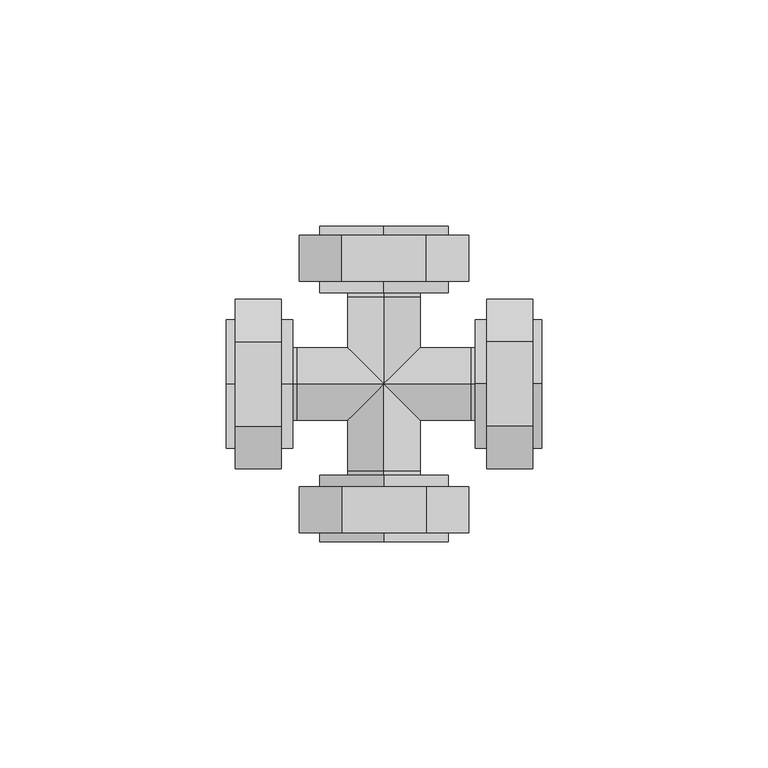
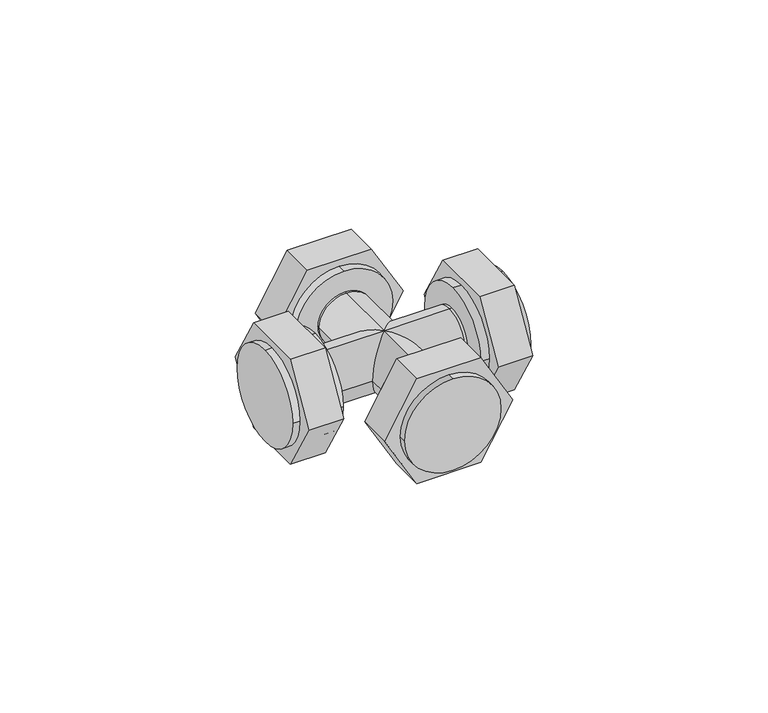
"""IFC4 building model written with IfcOpenShell, lengths in millimetres: pipe fitting geometry, HC-Kształtka-ParaForma-Tweetop-PERT-Czwórnik : Tweetop."""

from ifc_helpers import new_model, si_unit, frame, origin, place, context, project, spatial, circle_curve, ellipse_curve, source, transform, mapped, element, save
from ifc_brep_helpers import plane_surface, cylinder_surface, advanced_brep


def pipe_fitting_75d7e237(model_context):
    return source(origin(), model_context, "Body", "AdvancedBrep", [
        advanced_brep(
        [(0.0, 20.2, 14.2), (-14.2, 20.2, 0.0), (0.0, 20.2, -14.2), (14.2, 20.2, 0.0), (-9.3819419, 22.7, -16.25), (9.3819419, 22.7, -16.25), (18.7638837, 22.7, 0.0), (9.3819419, 22.7, 16.25), (-9.3819419, 22.7, 16.25), (-18.7638837, 22.7, 0.0), (0.0, 22.7, 14.2), (14.2, 22.7, 0.0), (0.0, 22.7, -14.2), (-14.2, 22.7, 0.0), (-9.3819419, 32.9, -16.25), (-18.7638837, 32.9, 0.0), (-9.3819419, 32.9, 16.25), (9.3819419, 32.9, 16.25), (18.7638837, 32.9, 0.0), (9.3819419, 32.9, -16.25), (14.2, 32.9, 0.0), (0.0, 32.9, 14.2), (-14.2, 32.9, 0.0), (0.0, 32.9, -14.2), (14.2, 34.9, 0.0), (0.0, 34.9, 14.2), (-14.2, 34.9, 0.0), (0.0, 34.9, -14.2)],
        [
            (0, 1, circle_curve(frame((0.0, 20.2, 0.0), z_axis=(0.0, -1.0, 0.0), x_axis=(-1.0000000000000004, 0.0, 0.0)), 14.2)),
            (1, 2, circle_curve(frame((0.0, 20.2, 0.0), z_axis=(0.0, -1.0, 0.0), x_axis=(-1.0000000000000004, 0.0, 0.0)), 14.2)),
            (2, 3, circle_curve(frame((0.0, 20.2, 0.0), z_axis=(0.0, -1.0, 0.0), x_axis=(-1.0000000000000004, 0.0, 0.0)), 14.2)),
            (3, 0, circle_curve(frame((0.0, 20.2, 0.0), z_axis=(0.0, -1.0, 0.0), x_axis=(-1.0000000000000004, 0.0, 0.0)), 14.2)),
            (4, 5),
            (5, 6),
            (6, 7),
            (7, 8),
            (8, 9),
            (9, 4),
            (10, 11, circle_curve(frame((0.0, 22.7, 0.0), z_axis=(0.0, 1.0, 0.0), x_axis=(-1.0000000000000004, 0.0, 0.0)), 14.2)),
            (11, 12, circle_curve(frame((0.0, 22.7, 0.0), z_axis=(0.0, 1.0, 0.0), x_axis=(-1.0000000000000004, 0.0, 0.0)), 14.2)),
            (12, 13, circle_curve(frame((0.0, 22.7, 0.0), z_axis=(0.0, 1.0, 0.0), x_axis=(-1.0000000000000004, 0.0, 0.0)), 14.2)),
            (13, 10, circle_curve(frame((0.0, 22.7, 0.0), z_axis=(0.0, 1.0, 0.0), x_axis=(-1.0000000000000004, 0.0, 0.0)), 14.2)),
            (14, 15),
            (15, 16),
            (16, 17),
            (17, 18),
            (18, 19),
            (19, 14),
            (20, 21, circle_curve(frame((0.0, 32.9, 0.0), z_axis=(0.0, -1.0, 0.0), x_axis=(-1.0000000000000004, 0.0, 0.0)), 14.2)),
            (21, 22, circle_curve(frame((0.0, 32.9, 0.0), z_axis=(0.0, -1.0, 0.0), x_axis=(-1.0000000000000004, 0.0, 0.0)), 14.2)),
            (22, 23, circle_curve(frame((0.0, 32.9, 0.0), z_axis=(0.0, -1.0, 0.0), x_axis=(-1.0000000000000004, 0.0, 0.0)), 14.2)),
            (23, 20, circle_curve(frame((0.0, 32.9, 0.0), z_axis=(0.0, -1.0, 0.0), x_axis=(-1.0000000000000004, 0.0, 0.0)), 14.2)),
            (4, 14),
            (19, 5),
            (18, 6),
            (17, 7),
            (16, 8),
            (15, 9),
            (3, 11),
            (10, 0),
            (24, 25, circle_curve(frame((0.0, 34.9, 0.0), z_axis=(0.0, -1.0, 0.0), x_axis=(-1.0000000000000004, 0.0, 0.0)), 14.2)),
            (25, 21),
            (20, 24),
            (1, 13),
            (12, 2),
            (26, 27, circle_curve(frame((0.0, 34.9, 0.0), z_axis=(0.0, -1.0, 0.0), x_axis=(-1.0000000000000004, 0.0, 0.0)), 14.2)),
            (27, 23),
            (22, 26),
            (25, 26, circle_curve(frame((0.0, 34.9, 0.0), z_axis=(0.0, -1.0, 0.0), x_axis=(-1.0000000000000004, 0.0, 0.0)), 14.2)),
            (27, 24, circle_curve(frame((0.0, 34.9, 0.0), z_axis=(0.0, -1.0, 0.0), x_axis=(-1.0000000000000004, 0.0, 0.0)), 14.2)),
        ],
        [
            plane_surface(frame((0.0, 20.2, 0.0), z_axis=(0.0, -1.0, 0.0), x_axis=(0.0, 0.0, 1.0))),
            plane_surface(frame((0.0, 22.7, 0.0), z_axis=(0.0, -1.0, 0.0), x_axis=(0.0, 0.0, 1.0))),
            plane_surface(frame((0.0, 32.9, 0.0), z_axis=(0.0, 1.0, 0.0), x_axis=(0.0, 0.0, 1.0))),
            plane_surface(frame((-9.3819419, 22.7, -16.25), z_axis=(0.0, 0.0, -1.0), x_axis=(0.0, 1.0, 0.0))),
            plane_surface(frame((9.3819419, 22.7, -16.25), z_axis=(0.866025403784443, 0.0, -0.49999999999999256), x_axis=(0.0, 1.0, 0.0))),
            plane_surface(frame((18.7638837, 22.7, 0.0), z_axis=(0.8660254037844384, 0.0, 0.5000000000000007), x_axis=(0.0, 1.0, 0.0))),
            plane_surface(frame((9.3819419, 22.7, 16.25), z_axis=(0.0, 0.0, 1.0), x_axis=(0.0, 1.0, 0.0))),
            plane_surface(frame((-9.3819419, 22.7, 16.25), z_axis=(-0.8660254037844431, 0.0, 0.49999999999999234), x_axis=(0.0, 1.0, 0.0))),
            plane_surface(frame((-18.7638837, 22.7, 0.0), z_axis=(-0.866025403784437, 0.0, -0.5000000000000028), x_axis=(0.0, 1.0, 0.0))),
            cylinder_surface(frame((0.0, 20.2, 0.0), z_axis=(0.0, -1.0000000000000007, 0.0), x_axis=(-1.0000000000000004, 0.0, 0.0)), 14.2),
            plane_surface(frame((0.0, 34.9, 0.0), z_axis=(0.0, 1.0, 0.0), x_axis=(0.0, 0.0, 1.0))),
        ],
        [
            (0, [[1, 2, 3, 4]]),
            (1, [[5, 6, 7, 8, 9, 10], [11, 12, 13, 14]]),
            (2, [[15, 16, 17, 18, 19, 20], [21, 22, 23, 24]]),
            (3, [[-5, 25, -20, 26]]),
            (4, [[-6, -26, -19, 27]]),
            (5, [[-7, -27, -18, 28]]),
            (6, [[-8, -28, -17, 29]]),
            (7, [[-9, -29, -16, 30]]),
            (8, [[-10, -30, -15, -25]]),
            (9, [[-4, 31, -11, 32]]),
            (9, [[33, 34, -21, 35]]),
            (9, [[-2, 36, -13, 37]]),
            (9, [[38, 39, -23, 40]]),
            (9, [[-1, -32, -14, -36]]),
            (9, [[41, -40, -22, -34]]),
            (9, [[-3, -37, -12, -31]]),
            (9, [[42, -35, -24, -39]]),
            (10, [[-33, -42, -38, -41]]),
        ],
    ),
        advanced_brep(
        [(20.2, 0.0, 14.2), (20.2, 14.2, 0.0), (20.2, 0.0, -14.2), (20.2, -14.2, 0.0), (22.7, 9.3819419, -16.25), (22.7, -9.3819419, -16.25), (22.7, -18.7638837, 0.0), (22.7, -9.3819419, 16.25), (22.7, 9.3819419, 16.25), (22.7, 18.7638837, 0.0), (22.7, 0.0, 14.2), (22.7, -14.2, 0.0), (22.7, 0.0, -14.2), (22.7, 14.2, 0.0), (32.9, 9.3819419, -16.25), (32.9, 18.7638837, 0.0), (32.9, 9.3819419, 16.25), (32.9, -9.3819419, 16.25), (32.9, -18.7638837, 0.0), (32.9, -9.3819419, -16.25), (32.9, -14.2, 0.0), (32.9, 0.0, 14.2), (32.9, 14.2, 0.0), (32.9, 0.0, -14.2), (34.9, -14.2, 0.0), (34.9, 0.0, 14.2), (34.9, 14.2, 0.0), (34.9, 0.0, -14.2)],
        [
            (0, 1, circle_curve(frame((20.2, 0.0, 0.0), z_axis=(-1.0, 0.0, 0.0), x_axis=(0.0, 1.0000000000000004, 0.0)), 14.2)),
            (1, 2, circle_curve(frame((20.2, 0.0, 0.0), z_axis=(-1.0, 0.0, 0.0), x_axis=(0.0, 1.0000000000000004, 0.0)), 14.2)),
            (2, 3, circle_curve(frame((20.2, 0.0, 0.0), z_axis=(-1.0, 0.0, 0.0), x_axis=(0.0, 1.0000000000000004, 0.0)), 14.2)),
            (3, 0, circle_curve(frame((20.2, 0.0, 0.0), z_axis=(-1.0, 0.0, 0.0), x_axis=(0.0, 1.0000000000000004, 0.0)), 14.2)),
            (4, 5),
            (5, 6),
            (6, 7),
            (7, 8),
            (8, 9),
            (9, 4),
            (10, 11, circle_curve(frame((22.7, 0.0, 0.0), z_axis=(1.0, 0.0, 0.0), x_axis=(0.0, 1.0000000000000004, 0.0)), 14.2)),
            (11, 12, circle_curve(frame((22.7, 0.0, 0.0), z_axis=(1.0, 0.0, 0.0), x_axis=(0.0, 1.0000000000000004, 0.0)), 14.2)),
            (12, 13, circle_curve(frame((22.7, 0.0, 0.0), z_axis=(1.0, 0.0, 0.0), x_axis=(0.0, 1.0000000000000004, 0.0)), 14.2)),
            (13, 10, circle_curve(frame((22.7, 0.0, 0.0), z_axis=(1.0, 0.0, 0.0), x_axis=(0.0, 1.0000000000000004, 0.0)), 14.2)),
            (14, 15),
            (15, 16),
            (16, 17),
            (17, 18),
            (18, 19),
            (19, 14),
            (20, 21, circle_curve(frame((32.9, 0.0, 0.0), z_axis=(-1.0, 0.0, 0.0), x_axis=(0.0, 1.0000000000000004, 0.0)), 14.2)),
            (21, 22, circle_curve(frame((32.9, 0.0, 0.0), z_axis=(-1.0, 0.0, 0.0), x_axis=(0.0, 1.0000000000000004, 0.0)), 14.2)),
            (22, 23, circle_curve(frame((32.9, 0.0, 0.0), z_axis=(-1.0, 0.0, 0.0), x_axis=(0.0, 1.0000000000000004, 0.0)), 14.2)),
            (23, 20, circle_curve(frame((32.9, 0.0, 0.0), z_axis=(-1.0, 0.0, 0.0), x_axis=(0.0, 1.0000000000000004, 0.0)), 14.2)),
            (4, 14),
            (19, 5),
            (18, 6),
            (17, 7),
            (16, 8),
            (15, 9),
            (3, 11),
            (10, 0),
            (24, 25, circle_curve(frame((34.9, 0.0, 0.0), z_axis=(-1.0, 0.0, 0.0), x_axis=(0.0, 1.0000000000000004, 0.0)), 14.2)),
            (25, 21),
            (20, 24),
            (1, 13),
            (12, 2),
            (26, 27, circle_curve(frame((34.9, 0.0, 0.0), z_axis=(-1.0, 0.0, 0.0), x_axis=(0.0, 1.0000000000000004, 0.0)), 14.2)),
            (27, 23),
            (22, 26),
            (25, 26, circle_curve(frame((34.9, 0.0, 0.0), z_axis=(-1.0, 0.0, 0.0), x_axis=(0.0, 1.0000000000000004, 0.0)), 14.2)),
            (27, 24, circle_curve(frame((34.9, 0.0, 0.0), z_axis=(-1.0, 0.0, 0.0), x_axis=(0.0, 1.0000000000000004, 0.0)), 14.2)),
        ],
        [
            plane_surface(frame((20.2, 0.0, 0.0), z_axis=(-1.0, 0.0, 0.0), x_axis=(0.0, 0.0, 1.0))),
            plane_surface(frame((22.7, 0.0, 0.0), z_axis=(-1.0, 0.0, 0.0), x_axis=(0.0, 0.0, 1.0))),
            plane_surface(frame((32.9, 0.0, 0.0), z_axis=(1.0, 0.0, 0.0), x_axis=(0.0, 0.0, 1.0))),
            plane_surface(frame((22.7, 9.3819419, -16.25), z_axis=(0.0, 0.0, -1.0), x_axis=(1.0, 0.0, 0.0))),
            plane_surface(frame((22.7, -9.3819419, -16.25), z_axis=(0.0, -0.866025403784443, -0.49999999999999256), x_axis=(1.0, 0.0, 0.0))),
            plane_surface(frame((22.7, -18.7638837, 0.0), z_axis=(0.0, -0.8660254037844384, 0.5000000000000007), x_axis=(1.0, 0.0, 0.0))),
            plane_surface(frame((22.7, -9.3819419, 16.25), z_axis=(0.0, 0.0, 1.0), x_axis=(1.0, 0.0, 0.0))),
            plane_surface(frame((22.7, 9.3819419, 16.25), z_axis=(0.0, 0.8660254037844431, 0.49999999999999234), x_axis=(1.0, 0.0, 0.0))),
            plane_surface(frame((22.7, 18.7638837, 0.0), z_axis=(0.0, 0.866025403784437, -0.5000000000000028), x_axis=(1.0, 0.0, 0.0))),
            cylinder_surface(frame((20.2, 0.0, 0.0), z_axis=(-1.0000000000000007, 0.0, 0.0), x_axis=(0.0, 1.0000000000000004, 0.0)), 14.2),
            plane_surface(frame((34.9, 0.0, 0.0), z_axis=(1.0, 0.0, 0.0), x_axis=(0.0, 0.0, 1.0))),
        ],
        [
            (0, [[1, 2, 3, 4]]),
            (1, [[5, 6, 7, 8, 9, 10], [11, 12, 13, 14]]),
            (2, [[15, 16, 17, 18, 19, 20], [21, 22, 23, 24]]),
            (3, [[-5, 25, -20, 26]]),
            (4, [[-6, -26, -19, 27]]),
            (5, [[-7, -27, -18, 28]]),
            (6, [[-8, -28, -17, 29]]),
            (7, [[-9, -29, -16, 30]]),
            (8, [[-10, -30, -15, -25]]),
            (9, [[-4, 31, -11, 32]]),
            (9, [[33, 34, -21, 35]]),
            (9, [[-2, 36, -13, 37]]),
            (9, [[38, 39, -23, 40]]),
            (9, [[-1, -32, -14, -36]]),
            (9, [[41, -40, -22, -34]]),
            (9, [[-3, -37, -12, -31]]),
            (9, [[42, -35, -24, -39]]),
            (10, [[-33, -42, -38, -41]]),
        ],
    ),
        advanced_brep(
        [(0.0, -20.2, 14.2), (14.2, -20.2, 0.0), (0.0, -20.2, -14.2), (-14.2, -20.2, 0.0), (9.3819419, -22.7, -16.25), (-9.3819419, -22.7, -16.25), (-18.7638837, -22.7, 0.0), (-9.3819419, -22.7, 16.25), (9.3819419, -22.7, 16.25), (18.7638837, -22.7, 0.0), (0.0, -22.7, 14.2), (-14.2, -22.7, 0.0), (0.0, -22.7, -14.2), (14.2, -22.7, 0.0), (9.3819419, -32.9, -16.25), (18.7638837, -32.9, 0.0), (9.3819419, -32.9, 16.25), (-9.3819419, -32.9, 16.25), (-18.7638837, -32.9, 0.0), (-9.3819419, -32.9, -16.25), (-14.2, -32.9, 0.0), (0.0, -32.9, 14.2), (14.2, -32.9, 0.0), (0.0, -32.9, -14.2), (-14.2, -34.9, 0.0), (0.0, -34.9, 14.2), (14.2, -34.9, 0.0), (0.0, -34.9, -14.2)],
        [
            (0, 1, circle_curve(frame((0.0, -20.2, 0.0), z_axis=(0.0, 1.0, 0.0), x_axis=(1.0000000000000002, 0.0, 0.0)), 14.2)),
            (1, 2, circle_curve(frame((0.0, -20.2, 0.0), z_axis=(0.0, 1.0, 0.0), x_axis=(1.0000000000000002, 0.0, 0.0)), 14.2)),
            (2, 3, circle_curve(frame((0.0, -20.2, 0.0), z_axis=(0.0, 1.0, 0.0), x_axis=(1.0000000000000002, 0.0, 0.0)), 14.2)),
            (3, 0, circle_curve(frame((0.0, -20.2, 0.0), z_axis=(0.0, 1.0, 0.0), x_axis=(1.0000000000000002, 0.0, 0.0)), 14.2)),
            (4, 5),
            (5, 6),
            (6, 7),
            (7, 8),
            (8, 9),
            (9, 4),
            (10, 11, circle_curve(frame((0.0, -22.7, 0.0), z_axis=(0.0, -1.0, 0.0), x_axis=(1.0000000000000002, 0.0, 0.0)), 14.2)),
            (11, 12, circle_curve(frame((0.0, -22.7, 0.0), z_axis=(0.0, -1.0, 0.0), x_axis=(1.0000000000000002, 0.0, 0.0)), 14.2)),
            (12, 13, circle_curve(frame((0.0, -22.7, 0.0), z_axis=(0.0, -1.0, 0.0), x_axis=(1.0000000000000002, 0.0, 0.0)), 14.2)),
            (13, 10, circle_curve(frame((0.0, -22.7, 0.0), z_axis=(0.0, -1.0, 0.0), x_axis=(1.0000000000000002, 0.0, 0.0)), 14.2)),
            (14, 15),
            (15, 16),
            (16, 17),
            (17, 18),
            (18, 19),
            (19, 14),
            (20, 21, circle_curve(frame((0.0, -32.9, 0.0), z_axis=(0.0, 1.0, 0.0), x_axis=(1.0000000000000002, 0.0, 0.0)), 14.2)),
            (21, 22, circle_curve(frame((0.0, -32.9, 0.0), z_axis=(0.0, 1.0, 0.0), x_axis=(1.0000000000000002, 0.0, 0.0)), 14.2)),
            (22, 23, circle_curve(frame((0.0, -32.9, 0.0), z_axis=(0.0, 1.0, 0.0), x_axis=(1.0000000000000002, 0.0, 0.0)), 14.2)),
            (23, 20, circle_curve(frame((0.0, -32.9, 0.0), z_axis=(0.0, 1.0, 0.0), x_axis=(1.0000000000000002, 0.0, 0.0)), 14.2)),
            (4, 14),
            (19, 5),
            (18, 6),
            (17, 7),
            (16, 8),
            (15, 9),
            (3, 11),
            (10, 0),
            (24, 25, circle_curve(frame((0.0, -34.9, 0.0), z_axis=(0.0, 1.0, 0.0), x_axis=(1.0000000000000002, 0.0, 0.0)), 14.2)),
            (25, 21),
            (20, 24),
            (1, 13),
            (12, 2),
            (26, 27, circle_curve(frame((0.0, -34.9, 0.0), z_axis=(0.0, 1.0, 0.0), x_axis=(1.0000000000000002, 0.0, 0.0)), 14.2)),
            (27, 23),
            (22, 26),
            (25, 26, circle_curve(frame((0.0, -34.9, 0.0), z_axis=(0.0, 1.0, 0.0), x_axis=(1.0000000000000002, 0.0, 0.0)), 14.2)),
            (27, 24, circle_curve(frame((0.0, -34.9, 0.0), z_axis=(0.0, 1.0, 0.0), x_axis=(1.0000000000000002, 0.0, 0.0)), 14.2)),
        ],
        [
            plane_surface(frame((0.0, -20.2, 0.0), z_axis=(0.0, 1.0, 0.0), x_axis=(0.0, 0.0, 1.0))),
            plane_surface(frame((0.0, -22.7, 0.0), z_axis=(0.0, 1.0, 0.0), x_axis=(0.0, 0.0, 1.0))),
            plane_surface(frame((0.0, -32.9, 0.0), z_axis=(0.0, -1.0, 0.0), x_axis=(0.0, 0.0, 1.0))),
            plane_surface(frame((9.3819419, -22.7, -16.25), z_axis=(0.0, 0.0, -1.0), x_axis=(0.0, -1.0, 0.0))),
            plane_surface(frame((-9.3819419, -22.7, -16.25), z_axis=(-0.866025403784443, 0.0, -0.49999999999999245), x_axis=(0.0, -1.0, 0.0))),
            plane_surface(frame((-18.7638837, -22.7, 0.0), z_axis=(-0.8660254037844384, 0.0, 0.5000000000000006), x_axis=(0.0, -1.0, 0.0))),
            plane_surface(frame((-9.3819419, -22.7, 16.25), z_axis=(0.0, 0.0, 1.0), x_axis=(0.0, -1.0, 0.0))),
            plane_surface(frame((9.3819419, -22.7, 16.25), z_axis=(0.8660254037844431, 0.0, 0.49999999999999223), x_axis=(0.0, -1.0, 0.0))),
            plane_surface(frame((18.7638837, -22.7, 0.0), z_axis=(0.8660254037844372, 0.0, -0.5000000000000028), x_axis=(0.0, -1.0, 0.0))),
            cylinder_surface(frame((0.0, -20.2, 0.0), z_axis=(0.0, 1.0000000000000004, 0.0), x_axis=(1.0000000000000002, 0.0, 0.0)), 14.2),
            plane_surface(frame((0.0, -34.9, 0.0), z_axis=(0.0, -1.0, 0.0), x_axis=(0.0, 0.0, 1.0))),
        ],
        [
            (0, [[1, 2, 3, 4]]),
            (1, [[5, 6, 7, 8, 9, 10], [11, 12, 13, 14]]),
            (2, [[15, 16, 17, 18, 19, 20], [21, 22, 23, 24]]),
            (3, [[-5, 25, -20, 26]]),
            (4, [[-6, -26, -19, 27]]),
            (5, [[-7, -27, -18, 28]]),
            (6, [[-8, -28, -17, 29]]),
            (7, [[-9, -29, -16, 30]]),
            (8, [[-10, -30, -15, -25]]),
            (9, [[-4, 31, -11, 32]]),
            (9, [[33, 34, -21, 35]]),
            (9, [[-2, 36, -13, 37]]),
            (9, [[38, 39, -23, 40]]),
            (9, [[-1, -32, -14, -36]]),
            (9, [[41, -40, -22, -34]]),
            (9, [[-3, -37, -12, -31]]),
            (9, [[42, -35, -24, -39]]),
            (10, [[-33, -42, -38, -41]]),
        ],
    ),
        advanced_brep(
        [(-20.2, 0.0, 14.2), (-20.2, -14.2, 0.0), (-20.2, 0.0, -14.2), (-20.2, 14.2, 0.0), (-22.7, -9.3819419, -16.25), (-22.7, 9.3819419, -16.25), (-22.7, 18.7638837, 0.0), (-22.7, 9.3819419, 16.25), (-22.7, -9.3819419, 16.25), (-22.7, -18.7638837, 0.0), (-22.7, 0.0, 14.2), (-22.7, 14.2, 0.0), (-22.7, 0.0, -14.2), (-22.7, -14.2, 0.0), (-32.9, -9.3819419, -16.25), (-32.9, -18.7638837, 0.0), (-32.9, -9.3819419, 16.25), (-32.9, 9.3819419, 16.25), (-32.9, 18.7638837, 0.0), (-32.9, 9.3819419, -16.25), (-32.9, 14.2, 0.0), (-32.9, 0.0, 14.2), (-32.9, -14.2, 0.0), (-32.9, 0.0, -14.2), (-34.9, 14.2, 0.0), (-34.9, 0.0, 14.2), (-34.9, -14.2, 0.0), (-34.9, 0.0, -14.2)],
        [
            (0, 1, circle_curve(frame((-20.2, 0.0, 0.0), z_axis=(1.0, 0.0, 0.0), x_axis=(0.0, -1.0, 0.0)), 14.2)),
            (1, 2, circle_curve(frame((-20.2, 0.0, 0.0), z_axis=(1.0, 0.0, 0.0), x_axis=(0.0, -1.0, 0.0)), 14.2)),
            (2, 3, circle_curve(frame((-20.2, 0.0, 0.0), z_axis=(1.0, 0.0, 0.0), x_axis=(0.0, -1.0, 0.0)), 14.2)),
            (3, 0, circle_curve(frame((-20.2, 0.0, 0.0), z_axis=(1.0, 0.0, 0.0), x_axis=(0.0, -1.0, 0.0)), 14.2)),
            (4, 5),
            (5, 6),
            (6, 7),
            (7, 8),
            (8, 9),
            (9, 4),
            (10, 11, circle_curve(frame((-22.7, 0.0, 0.0), z_axis=(-1.0, 0.0, 0.0), x_axis=(0.0, -1.0, 0.0)), 14.2)),
            (11, 12, circle_curve(frame((-22.7, 0.0, 0.0), z_axis=(-1.0, 0.0, 0.0), x_axis=(0.0, -1.0, 0.0)), 14.2)),
            (12, 13, circle_curve(frame((-22.7, 0.0, 0.0), z_axis=(-1.0, 0.0, 0.0), x_axis=(0.0, -1.0, 0.0)), 14.2)),
            (13, 10, circle_curve(frame((-22.7, 0.0, 0.0), z_axis=(-1.0, 0.0, 0.0), x_axis=(0.0, -1.0, 0.0)), 14.2)),
            (14, 15),
            (15, 16),
            (16, 17),
            (17, 18),
            (18, 19),
            (19, 14),
            (20, 21, circle_curve(frame((-32.9, 0.0, 0.0), z_axis=(1.0, 0.0, 0.0), x_axis=(0.0, -1.0, 0.0)), 14.2)),
            (21, 22, circle_curve(frame((-32.9, 0.0, 0.0), z_axis=(1.0, 0.0, 0.0), x_axis=(0.0, -1.0, 0.0)), 14.2)),
            (22, 23, circle_curve(frame((-32.9, 0.0, 0.0), z_axis=(1.0, 0.0, 0.0), x_axis=(0.0, -1.0, 0.0)), 14.2)),
            (23, 20, circle_curve(frame((-32.9, 0.0, 0.0), z_axis=(1.0, 0.0, 0.0), x_axis=(0.0, -1.0, 0.0)), 14.2)),
            (4, 14),
            (19, 5),
            (18, 6),
            (17, 7),
            (16, 8),
            (15, 9),
            (3, 11),
            (10, 0),
            (24, 25, circle_curve(frame((-34.9, 0.0, 0.0), z_axis=(1.0, 0.0, 0.0), x_axis=(0.0, -1.0, 0.0)), 14.2)),
            (25, 21),
            (20, 24),
            (1, 13),
            (12, 2),
            (26, 27, circle_curve(frame((-34.9, 0.0, 0.0), z_axis=(1.0, 0.0, 0.0), x_axis=(0.0, -1.0, 0.0)), 14.2)),
            (27, 23),
            (22, 26),
            (25, 26, circle_curve(frame((-34.9, 0.0, 0.0), z_axis=(1.0, 0.0, 0.0), x_axis=(0.0, -1.0, 0.0)), 14.2)),
            (27, 24, circle_curve(frame((-34.9, 0.0, 0.0), z_axis=(1.0, 0.0, 0.0), x_axis=(0.0, -1.0, 0.0)), 14.2)),
        ],
        [
            plane_surface(frame((-20.2, 0.0, 0.0), z_axis=(1.0, 0.0, 0.0), x_axis=(0.0, 0.0, 1.0))),
            plane_surface(frame((-22.7, 0.0, 0.0), z_axis=(1.0, 0.0, 0.0), x_axis=(0.0, 0.0, 1.0))),
            plane_surface(frame((-32.9, 0.0, 0.0), z_axis=(-1.0, 0.0, 0.0), x_axis=(0.0, 0.0, 1.0))),
            plane_surface(frame((-22.7, -9.3819419, -16.25), z_axis=(0.0, 0.0, -1.0), x_axis=(-1.0, 0.0, 0.0))),
            plane_surface(frame((-22.7, 9.3819419, -16.25), z_axis=(0.0, 0.8660254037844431, -0.49999999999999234), x_axis=(-1.0, 0.0, 0.0))),
            plane_surface(frame((-22.7, 18.7638837, 0.0), z_axis=(0.0, 0.8660254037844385, 0.5000000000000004), x_axis=(-1.0, 0.0, 0.0))),
            plane_surface(frame((-22.7, 9.3819419, 16.25), z_axis=(0.0, 0.0, 1.0), x_axis=(-1.0, 0.0, 0.0))),
            plane_surface(frame((-22.7, -9.3819419, 16.25), z_axis=(0.0, -0.8660254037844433, 0.4999999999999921), x_axis=(-1.0, 0.0, 0.0))),
            plane_surface(frame((-22.7, -18.7638837, 0.0), z_axis=(0.0, -0.8660254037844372, -0.5000000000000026), x_axis=(-1.0, 0.0, 0.0))),
            cylinder_surface(frame((-20.2, 0.0, 0.0), z_axis=(1.0, 0.0, 0.0), x_axis=(0.0, -1.0, 0.0)), 14.2),
            plane_surface(frame((-34.9, 0.0, 0.0), z_axis=(-1.0, 0.0, 0.0), x_axis=(0.0, 0.0, 1.0))),
        ],
        [
            (0, [[1, 2, 3, 4]]),
            (1, [[5, 6, 7, 8, 9, 10], [11, 12, 13, 14]]),
            (2, [[15, 16, 17, 18, 19, 20], [21, 22, 23, 24]]),
            (3, [[-5, 25, -20, 26]]),
            (4, [[-6, -26, -19, 27]]),
            (5, [[-7, -27, -18, 28]]),
            (6, [[-8, -28, -17, 29]]),
            (7, [[-9, -29, -16, 30]]),
            (8, [[-10, -30, -15, -25]]),
            (9, [[-4, 31, -11, 32]]),
            (9, [[33, 34, -21, 35]]),
            (9, [[-2, 36, -13, 37]]),
            (9, [[38, 39, -23, 40]]),
            (9, [[-1, -32, -14, -36]]),
            (9, [[41, -40, -22, -34]]),
            (9, [[-3, -37, -12, -31]]),
            (9, [[42, -35, -24, -39]]),
            (10, [[-33, -42, -38, -41]]),
        ],
    ),
        advanced_brep(
        [(-20.2, 0.0, 8.0), (-20.2, 8.0, 0.0), (-20.2, 0.0, -8.0), (-20.2, -8.0, 0.0), (0.0, 20.2, 8.0), (8.0, 20.2, 0.0), (0.0, 20.2, -8.0), (-8.0, 20.2, 0.0), (20.2, 0.0, 8.0), (20.2, -8.0, 0.0), (20.2, 0.0, -8.0), (20.2, 8.0, 0.0), (0.0, -20.2, 8.0), (-8.0, -20.2, 0.0), (0.0, -20.2, -8.0), (8.0, -20.2, 0.0), (-19.2, 0.0, 8.0), (0.0, 0.0, 8.0), (-8.0, 8.0, 0.0), (-19.2, 8.0, 0.0), (0.0, 0.0, -8.0), (-19.2, 0.0, -8.0), (-8.0, -8.0, 0.0), (-19.2, -8.0, 0.0), (19.2, 0.0, 8.0), (19.2, 8.0, 0.0), (8.0, 8.0, 0.0), (19.2, 0.0, -8.0), (19.2, -8.0, 0.0), (8.0, -8.0, 0.0), (0.0, -19.2, 8.0), (8.0, -19.2, 0.0), (0.0, -19.2, -8.0), (-8.0, -19.2, 0.0), (0.0, 19.2, 8.0), (-8.0, 19.2, 0.0), (0.0, 19.2, -8.0), (8.0, 19.2, 0.0)],
        [
            (0, 1, circle_curve(frame((-20.2, 0.0, 0.0), z_axis=(-1.0, 0.0, 0.0), x_axis=(0.0, 1.0, 0.0)), 8.0)),
            (1, 2, circle_curve(frame((-20.2, 0.0, 0.0), z_axis=(-1.0, 0.0, 0.0), x_axis=(0.0, 1.0, 0.0)), 8.0)),
            (2, 3, circle_curve(frame((-20.2, 0.0, 0.0), z_axis=(-1.0, 0.0, 0.0), x_axis=(0.0, 1.0, 0.0)), 8.0)),
            (3, 0, circle_curve(frame((-20.2, 0.0, 0.0), z_axis=(-1.0, 0.0, 0.0), x_axis=(0.0, 1.0, 0.0)), 8.0)),
            (4, 5, circle_curve(frame((0.0, 20.2, 0.0), z_axis=(0.0, 1.0, 0.0), x_axis=(-1.0, 0.0, 0.0)), 8.0)),
            (5, 6, circle_curve(frame((0.0, 20.2, 0.0), z_axis=(0.0, 1.0, 0.0), x_axis=(-1.0, 0.0, 0.0)), 8.0)),
            (6, 7, circle_curve(frame((0.0, 20.2, 0.0), z_axis=(0.0, 1.0, 0.0), x_axis=(-1.0, 0.0, 0.0)), 8.0)),
            (7, 4, circle_curve(frame((0.0, 20.2, 0.0), z_axis=(0.0, 1.0, 0.0), x_axis=(-1.0, 0.0, 0.0)), 8.0)),
            (8, 9, circle_curve(frame((20.2, 0.0, 0.0), z_axis=(1.0, 0.0, 0.0), x_axis=(0.0, 1.0, 0.0)), 8.0)),
            (9, 10, circle_curve(frame((20.2, 0.0, 0.0), z_axis=(1.0, 0.0, 0.0), x_axis=(0.0, 1.0, 0.0)), 8.0)),
            (10, 11, circle_curve(frame((20.2, 0.0, 0.0), z_axis=(1.0, 0.0, 0.0), x_axis=(0.0, 1.0, 0.0)), 8.0)),
            (11, 8, circle_curve(frame((20.2, 0.0, 0.0), z_axis=(1.0, 0.0, 0.0), x_axis=(0.0, 1.0, 0.0)), 8.0)),
            (12, 13, circle_curve(frame((0.0, -20.2, 0.0), z_axis=(0.0, -1.0, 0.0), x_axis=(1.0, 0.0, 0.0)), 8.0)),
            (13, 14, circle_curve(frame((0.0, -20.2, 0.0), z_axis=(0.0, -1.0, 0.0), x_axis=(1.0, 0.0, 0.0)), 8.0)),
            (14, 15, circle_curve(frame((0.0, -20.2, 0.0), z_axis=(0.0, -1.0, 0.0), x_axis=(1.0, 0.0, 0.0)), 8.0)),
            (15, 12, circle_curve(frame((0.0, -20.2, 0.0), z_axis=(0.0, -1.0, 0.0), x_axis=(1.0, 0.0, 0.0)), 8.0)),
            (16, 17),
            (17, 18, ellipse_curve(frame((0.0, 0.0, 0.0), z_axis=(-0.7071067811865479, -0.7071067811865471, 0.0), x_axis=(-0.7071067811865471, 0.7071067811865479, 0.0)), 11.3137085, 8.0)),
            (18, 19),
            (19, 16, circle_curve(frame((-19.2, 0.0, 0.0), z_axis=(1.0, 0.0, 0.0), x_axis=(0.0, 1.0, 0.0)), 8.0)),
            (20, 21),
            (21, 19, circle_curve(frame((-19.2, 0.0, 0.0), z_axis=(1.0, 0.0, 0.0), x_axis=(0.0, 1.0, 0.0)), 8.0)),
            (18, 20, ellipse_curve(frame((0.0, 0.0, 0.0), z_axis=(-0.7071067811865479, -0.7071067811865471, 0.0), x_axis=(-0.7071067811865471, 0.7071067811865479, 0.0)), 11.3137085, 8.0)),
            (20, 22, ellipse_curve(frame((0.0, 0.0, 0.0), z_axis=(-0.7071067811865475, 0.7071067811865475, 0.0), x_axis=(-0.7071067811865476, -0.7071067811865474, 0.0)), 11.3137085, 8.0)),
            (22, 23),
            (23, 21, circle_curve(frame((-19.2, 0.0, 0.0), z_axis=(1.0, 0.0, 0.0), x_axis=(0.0, 1.0, 0.0)), 8.0)),
            (16, 23, circle_curve(frame((-19.2, 0.0, 0.0), z_axis=(1.0, 0.0, 0.0), x_axis=(0.0, 1.0, 0.0)), 8.0)),
            (22, 17, ellipse_curve(frame((0.0, 0.0, 0.0), z_axis=(-0.7071067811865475, 0.7071067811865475, 0.0), x_axis=(-0.7071067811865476, -0.7071067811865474, 0.0)), 11.3137085, 8.0)),
            (17, 24),
            (24, 25, circle_curve(frame((19.2, 0.0, 0.0), z_axis=(-1.0, 0.0, 0.0), x_axis=(0.0, 1.0, 0.0)), 8.0)),
            (25, 26),
            (26, 17, ellipse_curve(frame((0.0, 0.0, 0.0), z_axis=(0.7071067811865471, -0.7071067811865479, 0.0), x_axis=(-0.7071067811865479, -0.7071067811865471, 0.0)), 11.3137085, 8.0)),
            (27, 20),
            (20, 26, ellipse_curve(frame((0.0, 0.0, 0.0), z_axis=(0.7071067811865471, -0.7071067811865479, 0.0), x_axis=(-0.7071067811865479, -0.7071067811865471, 0.0)), 11.3137085, 8.0)),
            (25, 27, circle_curve(frame((19.2, 0.0, 0.0), z_axis=(-1.0, 0.0, 0.0), x_axis=(0.0, 1.0, 0.0)), 8.0)),
            (27, 28, circle_curve(frame((19.2, 0.0, 0.0), z_axis=(-1.0, 0.0, 0.0), x_axis=(0.0, 1.0, 0.0)), 8.0)),
            (28, 29),
            (29, 20, ellipse_curve(frame((0.0, 0.0, 0.0), z_axis=(0.7071067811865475, 0.7071067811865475, 0.0), x_axis=(-0.7071067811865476, 0.7071067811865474, 0.0)), 11.3137085, 8.0)),
            (17, 29, ellipse_curve(frame((0.0, 0.0, 0.0), z_axis=(0.7071067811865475, 0.7071067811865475, 0.0), x_axis=(-0.7071067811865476, 0.7071067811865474, 0.0)), 11.3137085, 8.0)),
            (28, 24, circle_curve(frame((19.2, 0.0, 0.0), z_axis=(-1.0, 0.0, 0.0), x_axis=(0.0, 1.0, 0.0)), 8.0)),
            (17, 30),
            (30, 31, circle_curve(frame((0.0, -19.2, 0.0), z_axis=(0.0, 1.0, 0.0), x_axis=(1.0, 0.0, 0.0)), 8.0)),
            (31, 29),
            (32, 20),
            (31, 32, circle_curve(frame((0.0, -19.2, 0.0), z_axis=(0.0, 1.0, 0.0), x_axis=(1.0, 0.0, 0.0)), 8.0)),
            (32, 33, circle_curve(frame((0.0, -19.2, 0.0), z_axis=(0.0, 1.0, 0.0), x_axis=(1.0, 0.0, 0.0)), 8.0)),
            (33, 22),
            (33, 30, circle_curve(frame((0.0, -19.2, 0.0), z_axis=(0.0, 1.0, 0.0), x_axis=(1.0, 0.0, 0.0)), 8.0)),
            (17, 34),
            (34, 35, circle_curve(frame((0.0, 19.2, 0.0), z_axis=(0.0, -1.0, 0.0), x_axis=(-1.0, 0.0, 0.0)), 8.0)),
            (35, 18),
            (36, 20),
            (35, 36, circle_curve(frame((0.0, 19.2, 0.0), z_axis=(0.0, -1.0, 0.0), x_axis=(-1.0, 0.0, 0.0)), 8.0)),
            (36, 37, circle_curve(frame((0.0, 19.2, 0.0), z_axis=(0.0, -1.0, 0.0), x_axis=(-1.0, 0.0, 0.0)), 8.0)),
            (37, 26),
            (37, 34, circle_curve(frame((0.0, 19.2, 0.0), z_axis=(0.0, -1.0, 0.0), x_axis=(-1.0, 0.0, 0.0)), 8.0)),
            (0, 16),
            (19, 1),
            (21, 2),
            (23, 3),
            (7, 35),
            (34, 4),
            (6, 36),
            (5, 37),
            (11, 25),
            (24, 8),
            (10, 27),
            (9, 28),
            (15, 31),
            (30, 12),
            (14, 32),
            (13, 33),
        ],
        [
            plane_surface(frame((-20.2, 0.0, 0.0), z_axis=(-1.0, 0.0, 0.0), x_axis=(0.0, 0.0, 1.0))),
            plane_surface(frame((0.0, 20.2, 0.0), z_axis=(0.0, 1.0, 0.0), x_axis=(0.0, 0.0, 1.0))),
            plane_surface(frame((20.2, 0.0, 0.0), z_axis=(1.0, 0.0, 0.0), x_axis=(0.0, 0.0, 1.0))),
            plane_surface(frame((0.0, -20.2, 0.0), z_axis=(0.0, -1.0, 0.0), x_axis=(0.0, 0.0, 1.0))),
            cylinder_surface(frame((-19.2, 0.0, 0.0), z_axis=(-1.0, 0.0, 0.0), x_axis=(0.0, 1.0, 0.0)), 8.0),
            cylinder_surface(frame((0.0, 0.0, 0.0), z_axis=(-1.0, 0.0, 0.0), x_axis=(0.0, 1.0, 0.0)), 8.0),
            cylinder_surface(frame((0.0, 0.0, 0.0), z_axis=(0.0, 1.0, 0.0), x_axis=(1.0, 0.0, 0.0)), 8.0),
            cylinder_surface(frame((0.0, 0.0, 0.0), z_axis=(0.0, -1.0, 0.0), x_axis=(-1.0, 0.0, 0.0)), 8.0),
            cylinder_surface(frame((-20.2, 0.0, 0.0), z_axis=(-1.0, 0.0, 0.0), x_axis=(0.0, 1.0, 0.0)), 8.0),
            cylinder_surface(frame((0.0, 19.2, 0.0), z_axis=(0.0, -1.0, 0.0), x_axis=(-1.0, 0.0, 0.0)), 8.0),
            cylinder_surface(frame((19.2, 0.0, 0.0), z_axis=(-1.0, 0.0, 0.0), x_axis=(0.0, 1.0, 0.0)), 8.0),
            cylinder_surface(frame((0.0, -19.2, 0.0), z_axis=(0.0, 1.0, 0.0), x_axis=(1.0, 0.0, 0.0)), 8.0),
        ],
        [
            (0, [[1, 2, 3, 4]]),
            (1, [[5, 6, 7, 8]]),
            (2, [[9, 10, 11, 12]]),
            (3, [[13, 14, 15, 16]]),
            (4, [[17, 18, 19, 20]]),
            (4, [[21, 22, -19, 23]]),
            (4, [[-21, 24, 25, 26]]),
            (4, [[-17, 27, -25, 28]]),
            (5, [[29, 30, 31, 32]]),
            (5, [[33, 34, -31, 35]]),
            (5, [[-33, 36, 37, 38]]),
            (5, [[-29, 39, -37, 40]]),
            (6, [[41, 42, 43, -39]]),
            (6, [[44, -38, -43, 45]]),
            (6, [[-44, 46, 47, -24]]),
            (6, [[-41, -28, -47, 48]]),
            (7, [[49, 50, 51, -18]]),
            (7, [[52, -23, -51, 53]]),
            (7, [[-52, 54, 55, -34]]),
            (7, [[-49, -32, -55, 56]]),
            (8, [[-1, 57, -20, 58]]),
            (8, [[-2, -58, -22, 59]]),
            (8, [[-3, -59, -26, 60]]),
            (8, [[-4, -60, -27, -57]]),
            (9, [[-8, 61, -50, 62]]),
            (9, [[-7, 63, -53, -61]]),
            (9, [[-6, 64, -54, -63]]),
            (9, [[-5, -62, -56, -64]]),
            (10, [[-12, 65, -30, 66]]),
            (10, [[-11, 67, -35, -65]]),
            (10, [[-10, 68, -36, -67]]),
            (10, [[-9, -66, -40, -68]]),
            (11, [[-16, 69, -42, 70]]),
            (11, [[-15, 71, -45, -69]]),
            (11, [[-14, 72, -46, -71]]),
            (11, [[-13, -70, -48, -72]]),
        ],
    ),
    ])


if __name__ == "__main__":
    model = new_model("IFC4")
    model_context = context("Model", 3, world=origin())
    ifc_project = project(units=[si_unit("LENGTHUNIT", "METRE", prefix="MILLI")], contexts=[model_context])
    site = spatial("IfcSite", under=ifc_project)
    building = spatial("IfcBuilding", under=site)
    placement = place(None, origin())
    pipe_fitting_shape = pipe_fitting_75d7e237(model_context)
    element("IfcPipeFitting", 1, ObjectType="HC-Kształtka-ParaForma-Tweetop-PERT-Czwórnik : Tweetop", at=placement, inside=building, context=model_context, shape_type="MappedRepresentation", body=[
        mapped(pipe_fitting_shape, transform((0.0, 0.0, 0.0), x_axis=(1.0, 0.0, 0.0), y_axis=(0.0, 1.0, 0.0), z_axis=(0.0, 0.0, 1.0))),
    ])
    save(model, "model.ifc")
